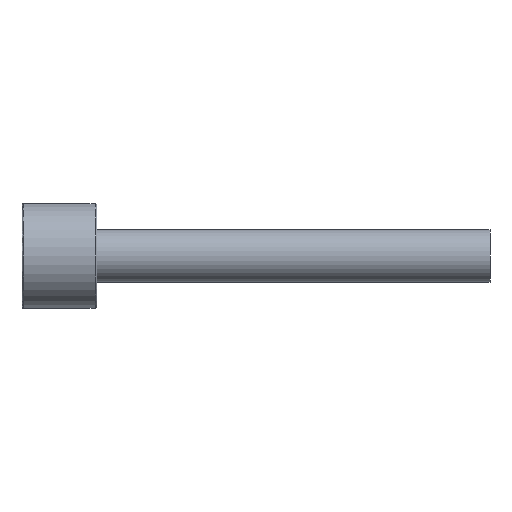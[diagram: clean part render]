
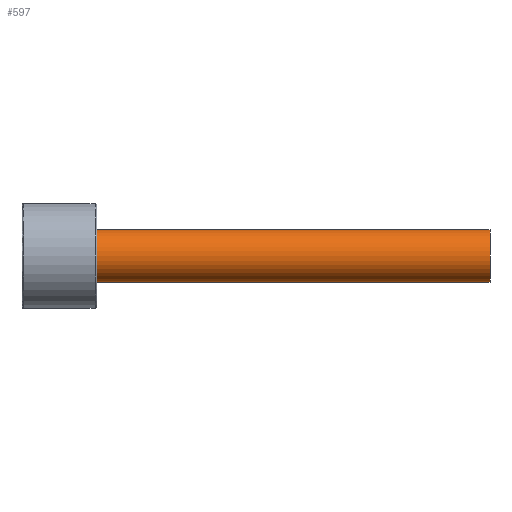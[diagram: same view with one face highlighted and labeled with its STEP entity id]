
A CAD part, front view. The second image highlights one B-rep face of the part: STEP entity #597.
In plain terms, the highlighted cylindrical face has radius 7 mm (diameter 14 mm), a partial arc.
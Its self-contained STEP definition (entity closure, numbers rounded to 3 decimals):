
#431=CARTESIAN_POINT('Vertex',(125.,0.,7.)) ;
#434=CARTESIAN_POINT('Axis2P3D Location',(125.,0.,0.)) ;
#438=CARTESIAN_POINT('Vertex',(125.,-7.,0.)) ;
#441=CARTESIAN_POINT('Axis2P3D Location',(125.,0.,0.)) ;
#445=CARTESIAN_POINT('Vertex',(125.,0.,-7.)) ;
#537=CARTESIAN_POINT('Line Origine',(125.,0.,7.)) ;
#541=CARTESIAN_POINT('Vertex',(20.,0.,7.)) ;
#544=CARTESIAN_POINT('Line Origine',(125.,0.,-7.)) ;
#548=CARTESIAN_POINT('Vertex',(20.,0.,-7.)) ;
#572=CARTESIAN_POINT('Axis2P3D Location',(125.,0.,0.)) ;
#577=CARTESIAN_POINT('Axis2P3D Location',(20.,0.,0.)) ;
#581=CARTESIAN_POINT('Vertex',(20.,-7.,0.)) ;
#584=CARTESIAN_POINT('Axis2P3D Location',(20.,0.,0.)) ;
#435=DIRECTION('Axis2P3D Direction',(1.,0.,-0.)) ;
#442=DIRECTION('Axis2P3D Direction',(1.,0.,-0.)) ;
#538=DIRECTION('Vector Direction',(-1.,0.,0.)) ;
#545=DIRECTION('Vector Direction',(-1.,0.,0.)) ;
#573=DIRECTION('Axis2P3D Direction',(-1.,-0.,-0.)) ;
#574=DIRECTION('Axis2P3D XDirection',(0.,0.,-1.)) ;
#578=DIRECTION('Axis2P3D Direction',(-1.,-0.,-0.)) ;
#585=DIRECTION('Axis2P3D Direction',(-1.,-0.,-0.)) ;
#436=AXIS2_PLACEMENT_3D('Circle Axis2P3D',#434,#435,$) ;
#443=AXIS2_PLACEMENT_3D('Circle Axis2P3D',#441,#442,$) ;
#575=AXIS2_PLACEMENT_3D('Cylinder Axis2P3D',#572,#573,#574) ;
#579=AXIS2_PLACEMENT_3D('Circle Axis2P3D',#577,#578,$) ;
#586=AXIS2_PLACEMENT_3D('Circle Axis2P3D',#584,#585,$) ;
#590=ORIENTED_EDGE('',*,*,#550,.T.) ;
#591=ORIENTED_EDGE('',*,*,#447,.F.) ;
#592=ORIENTED_EDGE('',*,*,#440,.F.) ;
#593=ORIENTED_EDGE('',*,*,#543,.T.) ;
#594=ORIENTED_EDGE('',*,*,#583,.T.) ;
#595=ORIENTED_EDGE('',*,*,#588,.T.) ;
#539=VECTOR('Line Direction',#538,1.) ;
#546=VECTOR('Line Direction',#545,1.) ;
#597=ADVANCED_FACE('367F-14X125',(#596),#576,.T.) ;
#437=CIRCLE('generated circle',#436,7.) ;
#444=CIRCLE('generated circle',#443,7.) ;
#580=CIRCLE('generated circle',#579,7.) ;
#587=CIRCLE('generated circle',#586,7.) ;
#576=CYLINDRICAL_SURFACE('generated cylinder',#575,7.) ;
#440=EDGE_CURVE('',#432,#439,#437,.T.) ;
#447=EDGE_CURVE('',#439,#446,#444,.T.) ;
#543=EDGE_CURVE('',#432,#542,#540,.T.) ;
#550=EDGE_CURVE('',#549,#446,#547,.F.) ;
#583=EDGE_CURVE('',#542,#582,#580,.F.) ;
#588=EDGE_CURVE('',#582,#549,#587,.F.) ;
#589=EDGE_LOOP('',(#590,#591,#592,#593,#594,#595)) ;
#596=FACE_OUTER_BOUND('',#589,.T.) ;
#540=LINE('Line',#537,#539) ;
#547=LINE('Line',#544,#546) ;
#432=VERTEX_POINT('',#431) ;
#439=VERTEX_POINT('',#438) ;
#446=VERTEX_POINT('',#445) ;
#542=VERTEX_POINT('',#541) ;
#549=VERTEX_POINT('',#548) ;
#582=VERTEX_POINT('',#581) ;
